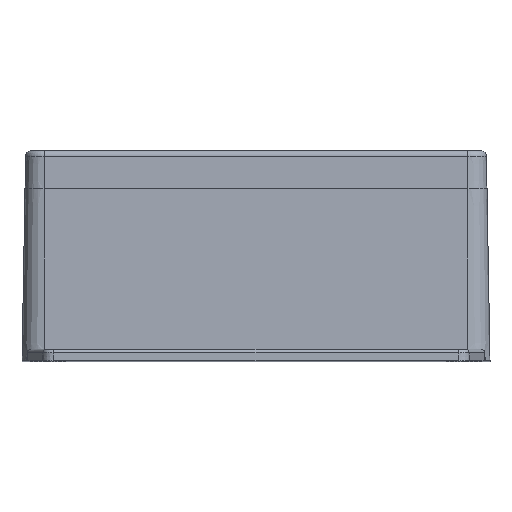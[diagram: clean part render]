
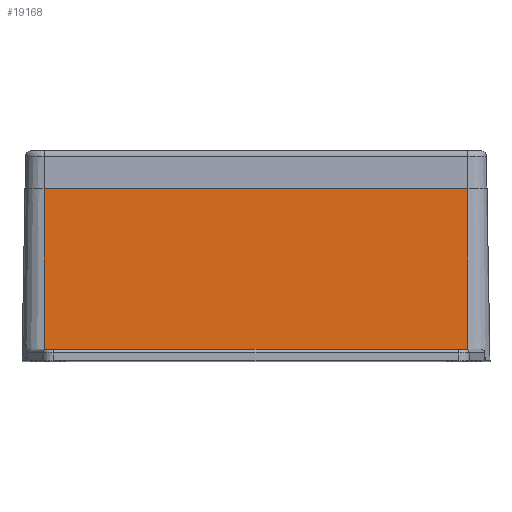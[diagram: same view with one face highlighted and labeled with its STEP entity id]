
A CAD part, top view. The second image highlights one B-rep face of the part: STEP entity #19168.
In plain terms, the highlighted planar face has unit normal (0, 0.018, 1).
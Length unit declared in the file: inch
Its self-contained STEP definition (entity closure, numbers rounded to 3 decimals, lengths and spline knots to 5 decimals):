
#1190 = CARTESIAN_POINT ( 'NONE',  ( -2.18504, 0., 3.36614 ) ) ;
#1847 = LINE ( 'NONE', #1190, #6071 ) ;
#3409 = DIRECTION ( 'NONE',  ( 0., 1., -0.017 ) ) ;
#3475 = ORIENTED_EDGE ( 'NONE', *, *, #20257, .F. ) ;
#4618 = CARTESIAN_POINT ( 'NONE',  ( -2.18504, 0., 3.36614 ) ) ;
#4927 = VECTOR ( 'NONE', #10173, 39.37008 ) ;
#5209 = ORIENTED_EDGE ( 'NONE', *, *, #5850, .F. ) ;
#5746 = VERTEX_POINT ( 'NONE', #15609 ) ;
#5850 = EDGE_CURVE ( 'NONE', #6460, #5746, #12097, .T. ) ;
#5995 = EDGE_CURVE ( 'NONE', #6460, #7803, #13085, .T. ) ;
#6051 = EDGE_LOOP ( 'NONE', ( #5209, #9047, #13761, #3475 ) ) ;
#6071 = VECTOR ( 'NONE', #12246, 39.37008 ) ;
#6196 = VECTOR ( 'NONE', #18688, 39.37008 ) ;
#6460 = VERTEX_POINT ( 'NONE', #18829 ) ;
#7803 = VERTEX_POINT ( 'NONE', #15636 ) ;
#8680 = FACE_OUTER_BOUND ( 'NONE', #6051, .T. ) ;
#8852 = AXIS2_PLACEMENT_3D ( 'NONE', #11631, #14825, #10102 ) ;
#9047 = ORIENTED_EDGE ( 'NONE', *, *, #5995, .T. ) ;
#10102 = DIRECTION ( 'NONE',  ( 0., -1., 0.017 ) ) ;
#10173 = DIRECTION ( 'NONE',  ( 1., 0., 0. ) ) ;
#11631 = CARTESIAN_POINT ( 'NONE',  ( -2.18504, 0., 3.36614 ) ) ;
#11823 = VERTEX_POINT ( 'NONE', #20218 ) ;
#12097 = LINE ( 'NONE', #4618, #6196 ) ;
#12144 = VECTOR ( 'NONE', #3409, 39.37008 ) ;
#12246 = DIRECTION ( 'NONE',  ( 1., 0., 0. ) ) ;
#13085 = LINE ( 'NONE', #19868, #4927 ) ;
#13294 = PLANE ( 'NONE',  #8852 ) ;
#13761 = ORIENTED_EDGE ( 'NONE', *, *, #16276, .T. ) ;
#13851 = LINE ( 'NONE', #14396, #12144 ) ;
#14396 = CARTESIAN_POINT ( 'NONE',  ( 2.18504, 0., 3.36614 ) ) ;
#14825 = DIRECTION ( 'NONE',  ( 0., 0.017, 1. ) ) ;
#15609 = CARTESIAN_POINT ( 'NONE',  ( -2.18504, 0., 3.36614 ) ) ;
#15636 = CARTESIAN_POINT ( 'NONE',  ( 2.18504, -1.65354, 3.395 ) ) ;
#16276 = EDGE_CURVE ( 'NONE', #7803, #11823, #13851, .T. ) ;
#18688 = DIRECTION ( 'NONE',  ( 0., 1., -0.017 ) ) ;
#18829 = CARTESIAN_POINT ( 'NONE',  ( -2.18504, -1.65354, 3.395 ) ) ;
#19168 = ADVANCED_FACE ( 'NONE', ( #8680 ), #13294, .T. ) ;
#19868 = CARTESIAN_POINT ( 'NONE',  ( -2.18504, -1.65354, 3.395 ) ) ;
#20218 = CARTESIAN_POINT ( 'NONE',  ( 2.18504, 0., 3.36614 ) ) ;
#20257 = EDGE_CURVE ( 'NONE', #5746, #11823, #1847, .T. ) ;
